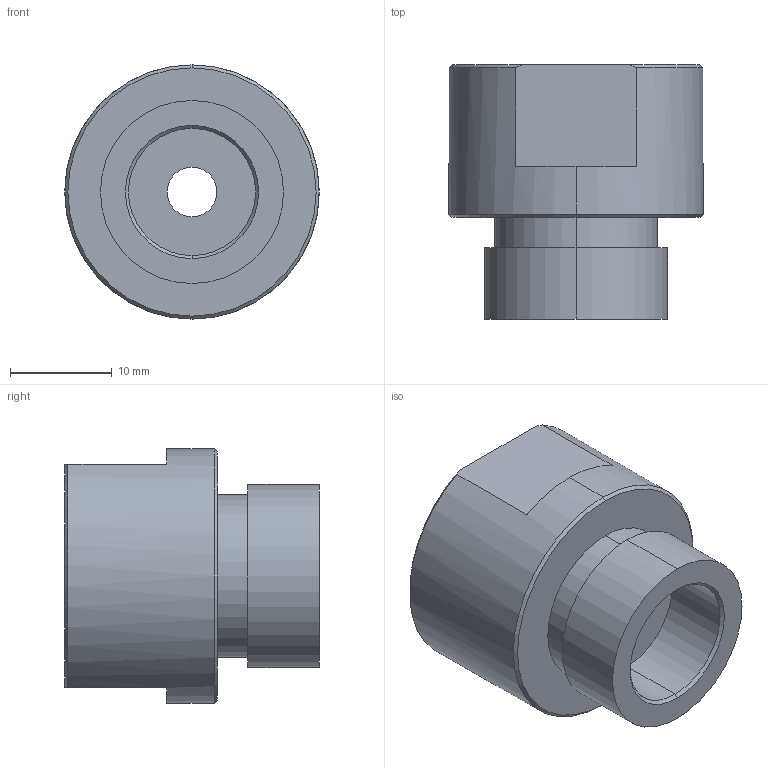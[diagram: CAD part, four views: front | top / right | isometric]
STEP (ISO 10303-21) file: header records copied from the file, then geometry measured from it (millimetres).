
FILE_DESCRIPTION (( 'STEP AP203' ), '1' );
FILE_NAME ('125MO-4.9.STEP', '2022-04-13T07:01:07', ( '' ), ( '' ), 'SwSTEP 2.0', 'SolidWorks 2015', '' );
FILE_SCHEMA (( 'CONFIG_CONTROL_DESIGN' ));
Length unit declared in the file: millimetre
Products named in the file (2): 125MO-4.9
Bounding box: 25 x 25 x 25 mm (x, y, z)
Volume: 8300.9 mm3; surface area: 3287.1 mm2
Topology: 1 solids, 1 shells, 25 faces, 56 edges, 36 vertices
Faces by surface type: cylinder 10, plane 9, cone 6
Entity records: 871 total; most frequent: DIRECTION 136, CARTESIAN_POINT 131, ORIENTED_EDGE 112, AXIS2_PLACEMENT_3D 57, EDGE_CURVE 56, VERTEX_POINT 36, CIRCLE 30, EDGE_LOOP 30
